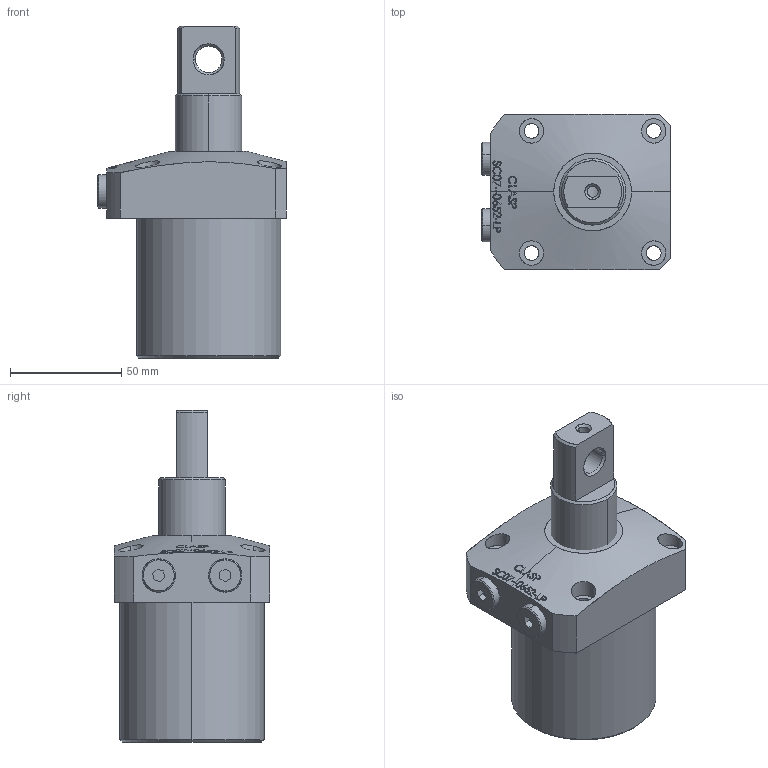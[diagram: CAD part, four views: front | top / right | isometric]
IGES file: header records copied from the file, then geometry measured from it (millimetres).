
Start section: SolidWorks IGES file using analytic representation for surfaces
Global section: file name: D:\karuppas\Clasp\3D model\SWING CYLINDER\Top Mounting swing cylinder-P type\SC07-0652 LP\SC07-0652-LP.IGS; native system: SolidWorks 2017; preprocessor: SolidWorks 2017; author: pc; date: 220708.222719; units: millimetre
Bounding box: 85 x 70 x 149.5 mm (x, y, z)
Surface area: 44999.6 mm2 (no closed solid volume)
Topology: 0 solids, 0 shells, 322 faces, 5778 edges, 5778 vertices
Faces by surface type: bspline 244, revolution 78
